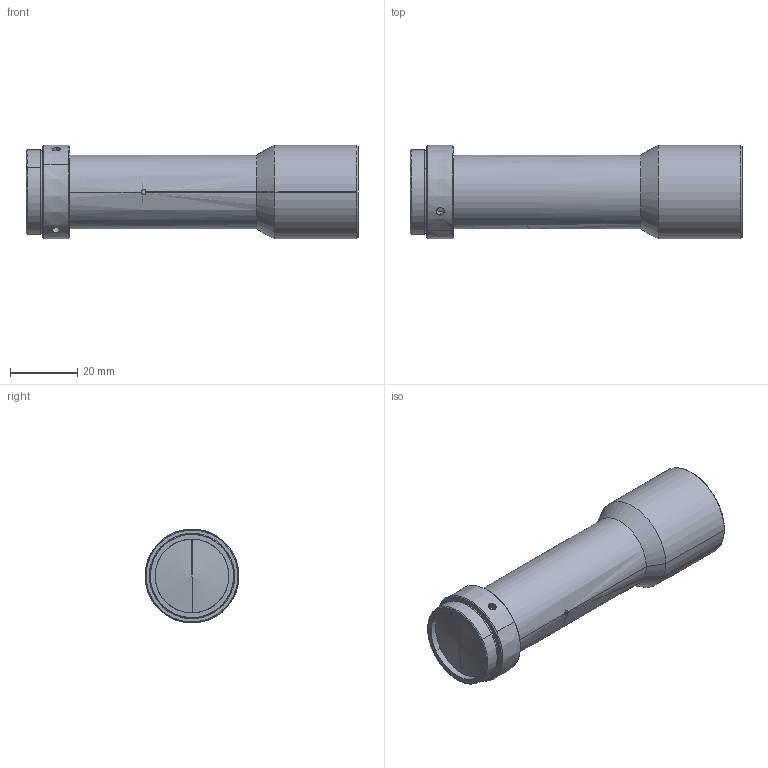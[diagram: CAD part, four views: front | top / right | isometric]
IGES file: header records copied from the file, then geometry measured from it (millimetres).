
Start section: SolidWorks IGES file using analytic representation for surfaces
Global section: file name: D:\----      产品2016.1.20\WWH\WWH   110\WWH 10\WWH05-190CT-AT---OK-同轴光效果不好，非同轴ok\WWH05-190AT----   ok\3D\WWH05-190AT.IGS; native system: SolidWorks 2012; preprocessor: SolidWorks 2012; author: frank; date: 170303.120000; units: millimetre
Bounding box: 98.97 x 28 x 28 mm (x, y, z)
Surface area: 9417.6 mm2 (no closed solid volume)
Topology: 0 solids, 0 shells, 47 faces, 830 edges, 826 vertices
Faces by surface type: revolution 42, bspline 5
